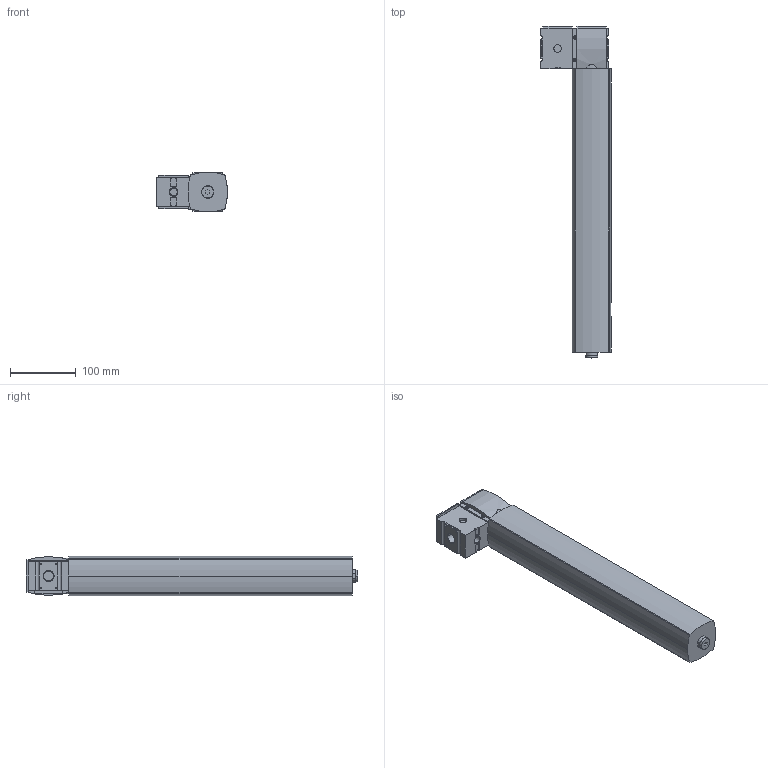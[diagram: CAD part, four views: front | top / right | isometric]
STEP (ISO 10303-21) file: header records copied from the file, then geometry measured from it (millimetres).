
FILE_DESCRIPTION((''),'2;1');
FILE_NAME('R412006083_ASM','2016-06-14T',('prr2cob'),(''),'PRO/ENGINEER BY PARAMETRIC TECHNOLOGY CORPORATION, 2012421','PRO/ENGINEER BY PARAMETRIC TECHNOLOGY CORPORATION, 2012421','');
FILE_SCHEMA(('CONFIG_CONTROL_DESIGN','SHAPE_APPEARANCE_LAYERS_GROUPS'));
Length unit declared in the file: millimetre
Products named in the file (5): R412006083; R412006251; R412006083_RES; R412006371; R412006083_ASM
Assembly tree (4 placements, depth 2):
  R412006083_ASM
    R412006083
    R412006251
    R412006083_RES
    R412006371
Bounding box: 108 x 506.5 x 60 mm (x, y, z)
Volume: 1721895 mm3; surface area: 149054 mm2
Topology: 4 solids, 4 shells, 303 faces, 773 edges, 506 vertices
Faces by surface type: plane 202, cylinder 79, cone 20, torus 2
Entity records: 9494 total; most frequent: CARTESIAN_POINT 1837, DIRECTION 1581, ORIENTED_EDGE 1546, EDGE_CURVE 773, VECTOR 581, LINE 581, VERTEX_POINT 506, AXIS2_PLACEMENT_3D 500
